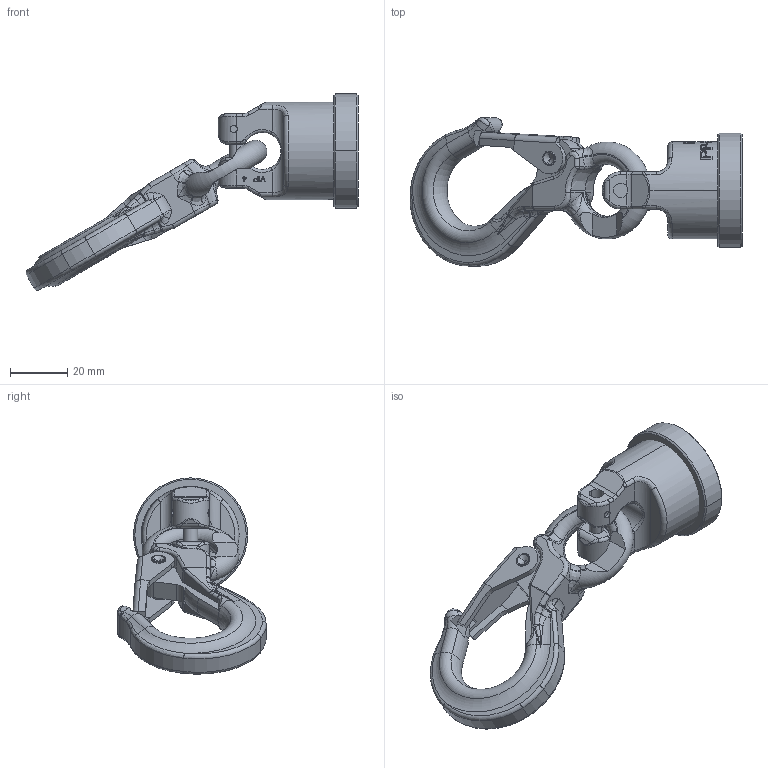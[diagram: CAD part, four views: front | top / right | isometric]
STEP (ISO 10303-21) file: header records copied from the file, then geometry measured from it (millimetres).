
FILE_DESCRIPTION((''),'2;1');
FILE_NAME('001-M31453-P-40_ASM','2018-04-27T',('Anja.Joas'),(''),'PRO/ENGINEER BY PARAMETRIC TECHNOLOGY CORPORATION, 2011490','PRO/ENGINEER BY PARAMETRIC TECHNOLOGY CORPORATION, 2011490','');
FILE_SCHEMA(('CONFIG_CONTROL_DESIGN'));
Length unit declared in the file: millimetre
Products named in the file (6): 001-M31453-P-20; 001-M31453-P-50; 001-M31569-P-1; 001-M31567-P-1; 001-M31569-P-1_ASM; 001-M31453-P-40_ASM
Assembly tree (5 placements, depth 3):
  001-M31453-P-40_ASM
    001-M31453-P-20
    001-M31453-P-50
    001-M31569-P-1_ASM
      001-M31569-P-1
      001-M31567-P-1
Bounding box: 116.25 x 51.99 x 68.73 mm (x, y, z)
Volume: 55216.3 mm3; surface area: 19019.5 mm2
Topology: 4 solids, 4 shells, 789 faces, 2062 edges, 1301 vertices
Faces by surface type: plane 455, cylinder 135, bspline 129, torus 50, cone 14, sphere 6
Entity records: 29383 total; most frequent: CARTESIAN_POINT 11469, ORIENTED_EDGE 4116, DIRECTION 3164, EDGE_CURVE 2058, VERTEX_POINT 1301, AXIS2_PLACEMENT_3D 1167, VECTOR 830, LINE 830
